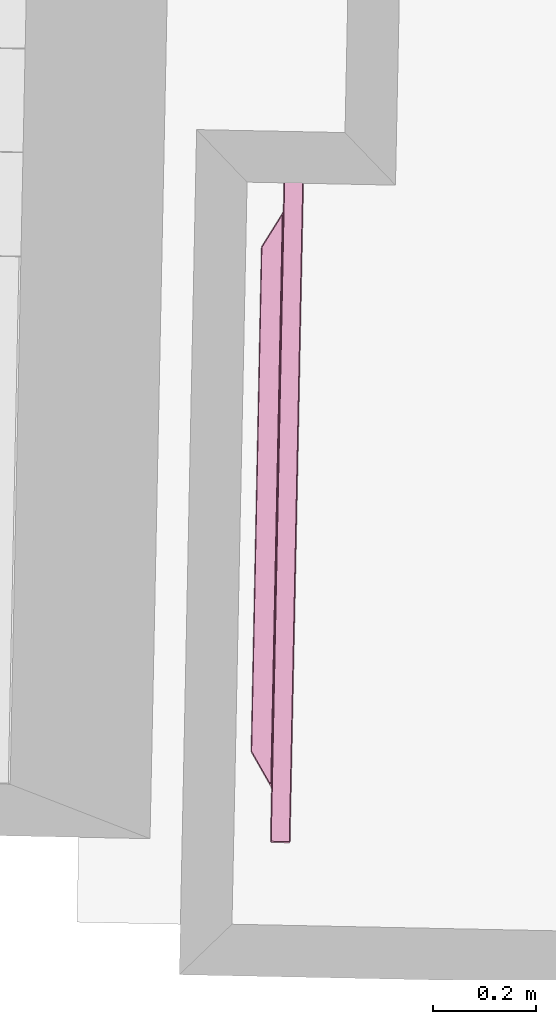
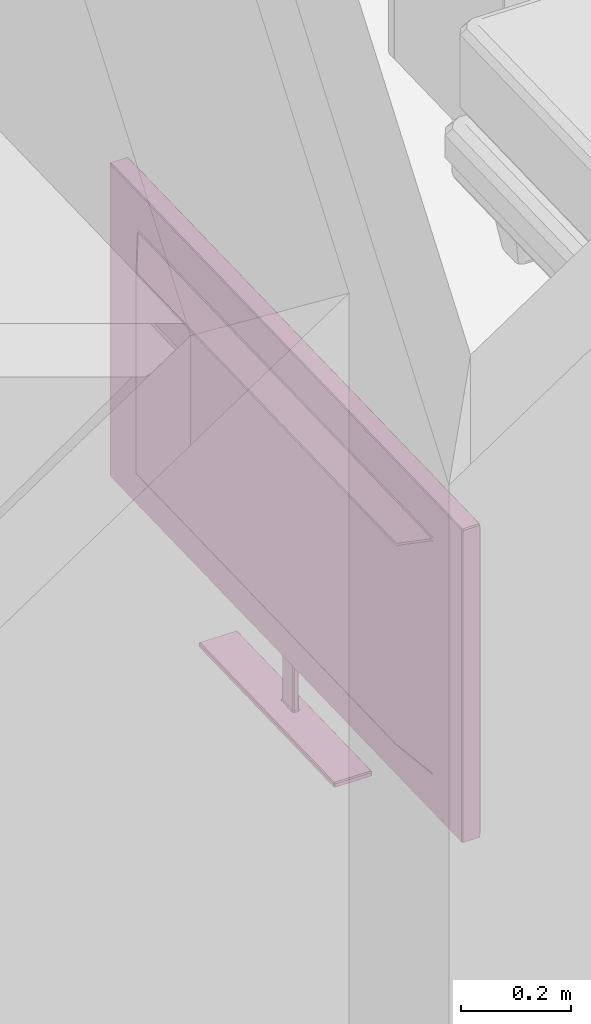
# One storey, part 5 of 8: 1 furnishing.
"""IFC2X3 building model written with IfcOpenShell, lengths in metres."""

from ifc_helpers import new_model, si_unit, frame, origin_with_axes, place, context, project, spatial, faceted_brep, type_object, element, save


model = new_model("IFC2X3")

# Units and contexts
model_context = context("Model", 3, precision=1e-05, world=origin_with_axes())
ifc_project = project(units=[si_unit("AREAUNIT", "SQUARE_METRE"), si_unit("LENGTHUNIT", "METRE")], contexts=[model_context])

# Site, building, storey, space
site_placement = place(None, origin_with_axes())
site = spatial("IfcSite", under=ifc_project, at=site_placement, Name="Site", CompositionType="ELEMENT")
building_placement = place(site_placement, origin_with_axes())
building = spatial("IfcBuilding", under=site, at=building_placement, Name="Building", CompositionType="ELEMENT")
storey_placement = place(building_placement, frame((0.0, 0.0, 2.8867046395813), z_axis=(0.0, 0.0, 1.0), x_axis=(1.0, 0.0, 0.0)))
storey = spatial("IfcBuildingStorey", under=building, at=storey_placement, Name="Story 1", CompositionType="ELEMENT", Elevation=2.8867045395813)
space_placement = place(storey_placement, frame((-5.79603528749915, -0.942128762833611, 0.0), z_axis=(0.0, 0.0, 1.0), x_axis=(1.0, 0.0, 0.0)))
space = spatial("IfcSpace", under=storey, at=space_placement, Name="006", CompositionType="ELEMENT", InteriorOrExteriorSpace="INTERNAL")

# Furnishing
furniture_type = type_object("IfcFurnitureType", Name="989c6d3e-431b-4286-8a18-e3d2ae4f307f")
furnishing_placement = place(space_placement, frame((4.15422749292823, -2.9785608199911, 0.978195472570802), z_axis=(0.0, 0.0, 0.999999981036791), x_axis=(0.999792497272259, -0.0203692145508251, 0.0)))
element("IfcFurnishingElement", 1, at=furnishing_placement, inside=space, type_object=furniture_type, Name="Television", ObjectType="Television", context=model_context, shape_type="Brep", body=[
    faceted_brep([(0.0288, -0.6309, -0.2396), (0.0288, 0.6309, -0.2396), (0.0288, -0.6335, -0.2374), (0.0288, -0.6335, 0.3757), (0.0288, -0.6335, -0.2374), (0.0288, -0.6309, 0.3779), (0.0288, 0.6309, 0.3779), (0.0288, -0.6309, 0.3779), (0.0288, 0.6335, 0.3757), (0.0288, -0.6309, 0.3779), (0.0288, -0.6335, -0.2374), (0.0288, 0.6335, 0.3757), (0.0288, -0.6335, -0.2374), (0.0288, 0.6309, -0.2396), (0.0288, 0.6335, 0.3757), (0.0288, 0.6309, -0.2396), (0.0288, 0.6335, -0.2374), (0.0288, 0.6335, 0.3757), (0.003, -0.6654, 0.4032), (0.003, -0.6654, -0.289), (0.038, -0.6654, 0.4032), (0.038, -0.6654, -0.289), (0.038, -0.6654, 0.4032), (0.003, -0.6654, -0.289), (0.003, 0.6654, -0.289), (0.003, 0.6654, 0.4032), (0.038, 0.6654, -0.289), (0.038, 0.6654, 0.4032), (0.038, 0.6654, -0.289), (0.003, 0.6654, 0.4032), (0.003, 0.6629, 0.4053), (0.003, -0.6629, 0.4053), (0.038, 0.6629, 0.4053), (0.038, -0.6629, 0.4053), (0.038, 0.6629, 0.4053), (0.003, -0.6629, 0.4053), (0.0143, -0.0229, -0.2661), (0.0062, -0.0229, -0.2661), (0.0143, -0.0229, -0.3914), (0.0062, -0.0229, -0.3914), (0.0143, -0.0229, -0.3914), (0.0062, -0.0229, -0.2661), (0.0162, 0.0182, -0.2661), (0.0162, -0.0205, -0.2661), (0.0162, 0.0182, -0.3914), (0.0162, -0.0205, -0.3914), (0.0162, 0.0182, -0.3914), (0.0162, -0.0205, -0.2661), (0.0062, 0.0207, -0.2661), (0.0143, 0.0207, -0.2661), (0.0062, 0.0207, -0.3914), (0.0143, 0.0207, -0.3914), (0.0062, 0.0207, -0.3914), (0.0143, 0.0207, -0.2661), (-0.04, 0.4877, -0.1631), (-0.04, -0.4877, -0.1631), (-0.04, 0.4877, 0.2773), (-0.04, -0.4877, 0.2773), (-0.04, 0.4877, 0.2773), (-0.04, -0.4877, -0.1631), (0.0043, 0.0182, -0.3914), (0.0043, -0.0205, -0.3914), (0.0043, 0.0182, -0.2661), (0.0043, -0.0205, -0.2661), (0.0043, 0.0182, -0.2661), (0.0043, -0.0205, -0.3914), (0.038, -0.6629, -0.2911), (0.003, -0.6629, -0.2911), (0.038, 0.6629, -0.2911), (0.003, 0.6629, -0.2911), (0.038, 0.6629, -0.2911), (0.003, -0.6629, -0.2911), (-0.0379, -0.2545, -0.4053), (-0.0379, 0.2522, -0.4053), (0.0382, -0.2545, -0.4053), (0.0382, 0.2522, -0.4053), (0.0382, -0.2545, -0.4053), (-0.0379, 0.2522, -0.4053), (0.0399, -0.6369, -0.246), (0.0399, -0.6614, -0.289), (0.0399, 0.6369, -0.246), (0.0399, 0.6614, -0.289), (0.0399, 0.6369, -0.246), (0.0399, -0.6614, -0.289), (0.0399, -0.6409, 0.3813), (0.0399, -0.6629, 0.4002), (0.0399, -0.6409, -0.2434), (0.0399, -0.6629, -0.282), (0.0399, -0.6409, -0.2434), (0.0399, -0.6629, 0.4002), (0.0399, 0.6374, 0.3843), (0.0399, 0.6594, 0.4032), (0.0399, -0.6374, 0.3843), (0.0399, -0.6594, 0.4032), (0.0399, -0.6374, 0.3843), (0.0399, 0.6594, 0.4032), (0.0399, 0.6629, -0.282), (0.0399, 0.6629, 0.4002), (0.0399, 0.6409, -0.2434), (0.0399, 0.6409, 0.3813), (0.0399, 0.6409, -0.2434), (0.0399, 0.6629, 0.4002), (0.0288, -0.6309, -0.2396), (0.0381, -0.6351, -0.2432), (0.0288, 0.6309, -0.2396), (0.0381, 0.6351, -0.2432), (0.0288, 0.6309, -0.2396), (0.0381, -0.6351, -0.2432), (0.0288, -0.6335, 0.3757), (0.0381, -0.6377, 0.3793), (0.0288, -0.6335, -0.2374), (0.0381, -0.6377, -0.241), (0.0288, -0.6335, -0.2374), (0.0381, -0.6377, 0.3793), (0.0288, 0.6309, 0.3779), (0.0381, 0.6351, 0.3815), (0.0288, -0.6309, 0.3779), (0.0381, -0.6351, 0.3815), (0.0288, -0.6309, 0.3779), (0.0381, 0.6351, 0.3815), (0.0288, 0.6335, -0.2374), (0.0381, 0.6377, -0.241), (0.0288, 0.6335, 0.3757), (0.0381, 0.6377, 0.3793), (0.0288, 0.6335, 0.3757), (0.0381, 0.6377, -0.241), (0.0011, -0.5617, -0.2041), (0.0011, -0.6629, -0.2862), (0.0011, -0.5617, 0.3183), (0.0011, -0.6629, 0.4004), (0.0011, -0.5617, 0.3183), (0.0011, -0.6629, -0.2862), (0.0011, 0.5582, -0.2071), (0.0011, 0.6592, -0.289), (0.0011, -0.5582, -0.2071), (0.0011, -0.6592, -0.289), (0.0011, -0.5582, -0.2071), (0.0011, 0.6592, -0.289), (0.0011, 0.5617, 0.3183), (0.0011, 0.6629, 0.4004), (0.0011, 0.5617, -0.2041), (0.0011, 0.6629, -0.2862), (0.0011, 0.5617, -0.2041), (0.0011, 0.6629, 0.4004), (0.0011, -0.5582, 0.3213), (0.0011, -0.6592, 0.4032), (0.0011, 0.5582, 0.3213), (0.0011, 0.6592, 0.4032), (0.0011, 0.5582, 0.3213), (0.0011, -0.6592, 0.4032), (-0.0389, -0.4921, 0.2781), (-0.0389, -0.4921, -0.164), (0.0, -0.5573, 0.3157), (0.0, -0.5573, -0.2015), (0.0, -0.5573, 0.3157), (-0.0389, -0.4921, -0.164), (-0.0386, -0.4891, -0.1666), (-0.0386, 0.4891, -0.1666), (-0.0003, -0.5534, -0.2036), (-0.0003, 0.5534, -0.2036), (-0.0003, -0.5534, -0.2036), (-0.0386, 0.4891, -0.1666), (-0.0389, 0.4921, -0.164), (-0.0389, 0.4921, 0.2781), (0.0, 0.5573, -0.2015), (0.0, 0.5573, 0.3157), (0.0, 0.5573, -0.2015), (-0.0389, 0.4921, 0.2781), (-0.0386, 0.4891, 0.2808), (-0.0386, -0.4891, 0.2808), (-0.0003, 0.5534, 0.3178), (-0.0003, -0.5534, 0.3178), (-0.0003, 0.5534, 0.3178), (-0.0386, -0.4891, 0.2808), (0.04, 0.2522, -0.4032), (0.04, 0.2522, -0.3958), (0.04, -0.2545, -0.4032), (0.04, -0.2545, -0.3958), (0.04, -0.2545, -0.4032), (0.04, 0.2522, -0.3958), (-0.0379, 0.2547, -0.4032), (-0.0379, 0.2547, -0.3958), (0.0382, 0.2547, -0.4032), (0.0382, 0.2547, -0.3958), (0.0382, 0.2547, -0.4032), (-0.0379, 0.2547, -0.3958), (-0.0397, -0.2545, -0.4032), (-0.0397, -0.2545, -0.3958), (-0.0397, 0.2522, -0.4032), (-0.0397, 0.2522, -0.3958), (-0.0397, 0.2522, -0.4032), (-0.0397, -0.2545, -0.3958), (0.0382, -0.2569, -0.4032), (0.0382, -0.2569, -0.3958), (-0.0379, -0.2569, -0.4032), (-0.0379, -0.2569, -0.3958), (-0.0379, -0.2569, -0.4032), (0.0382, -0.2569, -0.3958), (-0.0374, -0.2545, -0.3936), (0.0379, -0.2545, -0.3936), (0.0058, -0.0254, -0.3936), (0.0146, -0.0254, -0.3936), (0.0058, -0.0254, -0.3936), (0.0379, -0.2545, -0.3936), (0.0025, 0.0204, -0.3936), (-0.0379, 0.2348, -0.3936), (0.0025, -0.0226, -0.3936), (-0.0379, -0.2371, -0.3936), (0.0025, -0.0226, -0.3936), (-0.0379, 0.2348, -0.3936), (0.0146, 0.0231, -0.3936), (0.0379, 0.2522, -0.3936), (0.0058, 0.0231, -0.3936), (-0.0374, 0.2522, -0.3936), (0.0058, 0.0231, -0.3936), (0.0379, 0.2522, -0.3936), (0.018, -0.0228, -0.3936), (0.0382, -0.2206, -0.3936), (0.018, 0.0205, -0.3936), (0.0382, 0.2183, -0.3936), (0.018, 0.0205, -0.3936), (0.0382, -0.2206, -0.3936), (0.0346, -0.6508, -0.2518), (0.0346, 0.6508, -0.2518), (0.0346, -0.6508, 0.3901), (0.0346, 0.6508, 0.3901), (0.0346, -0.6508, 0.3901), (0.0346, 0.6508, -0.2518), (0.0399, -0.6594, 0.4032), (0.038, -0.6629, 0.4053), (0.0399, -0.6629, 0.4002), (0.038, -0.6654, 0.4032), (0.0399, -0.6629, 0.4002), (0.038, -0.6629, 0.4053), (0.0011, 0.6592, 0.4032), (0.003, 0.6629, 0.4053), (0.0011, 0.6629, 0.4004), (0.003, 0.6654, 0.4032), (0.0011, 0.6629, 0.4004), (0.003, 0.6629, 0.4053), (0.0399, 0.6629, 0.4002), (0.038, 0.6654, 0.4032), (0.0399, 0.6594, 0.4032), (0.038, 0.6629, 0.4053), (0.0399, 0.6594, 0.4032), (0.038, 0.6654, 0.4032), (0.0058, -0.0254, -0.3936), (0.0062, -0.0229, -0.3914), (0.0025, -0.0226, -0.3936), (0.0043, -0.0205, -0.3914), (0.0025, -0.0226, -0.3936), (0.0062, -0.0229, -0.3914), (0.0146, -0.0254, -0.3936), (0.018, -0.0228, -0.3936), (0.0143, -0.0229, -0.3914), (0.0162, -0.0205, -0.3914), (0.0143, -0.0229, -0.3914), (0.018, -0.0228, -0.3936), (0.0146, 0.0231, -0.3936), (0.0143, 0.0207, -0.3914), (0.018, 0.0205, -0.3936), (0.0162, 0.0182, -0.3914), (0.018, 0.0205, -0.3936), (0.0143, 0.0207, -0.3914), (-0.0386, -0.4891, 0.2808), (-0.04, -0.4877, 0.2773), (-0.0389, -0.4921, 0.2781), (0.0058, 0.0231, -0.3936), (0.0025, 0.0204, -0.3936), (0.0062, 0.0207, -0.3914), (0.0043, 0.0182, -0.3914), (0.0062, 0.0207, -0.3914), (0.0025, 0.0204, -0.3936), (0.0011, -0.6592, -0.289), (0.003, -0.6629, -0.2911), (0.0011, -0.6629, -0.2862), (0.003, -0.6654, -0.289), (0.0011, -0.6629, -0.2862), (0.003, -0.6629, -0.2911), (0.0399, -0.6629, -0.282), (0.038, -0.6654, -0.289), (0.0399, -0.6614, -0.289), (0.038, -0.6629, -0.2911), (0.0399, -0.6614, -0.289), (0.038, -0.6654, -0.289), (0.0382, -0.2569, -0.4032), (0.0382, -0.2545, -0.4053), (0.04, -0.2545, -0.4032), (0.0399, 0.6629, -0.282), (0.0399, 0.6614, -0.289), (0.038, 0.6654, -0.289), (0.038, 0.6629, -0.2911), (0.038, 0.6654, -0.289), (0.0399, 0.6614, -0.289), (0.0381, -0.6377, -0.241), (0.0399, -0.6409, -0.2434), (0.0381, -0.6351, -0.2432), (0.0399, -0.6369, -0.246), (0.0381, -0.6351, -0.2432), (0.0399, -0.6409, -0.2434), (0.0381, -0.6351, 0.3815), (0.0399, -0.6374, 0.3843), (0.0381, -0.6377, 0.3793), (0.0399, -0.6409, 0.3813), (0.0381, -0.6377, 0.3793), (0.0399, -0.6374, 0.3843), (0.0381, 0.6377, 0.3793), (0.0399, 0.6409, 0.3813), (0.0381, 0.6351, 0.3815), (0.0399, 0.6374, 0.3843), (0.0381, 0.6351, 0.3815), (0.0399, 0.6409, 0.3813), (0.0381, 0.6377, -0.241), (0.0381, 0.6351, -0.2432), (0.0399, 0.6409, -0.2434), (0.0399, 0.6369, -0.246), (0.0399, 0.6409, -0.2434), (0.0381, 0.6351, -0.2432), (0.0011, -0.6592, 0.4032), (0.0011, -0.6629, 0.4004), (0.003, -0.6629, 0.4053), (0.003, -0.6654, 0.4032), (0.003, -0.6629, 0.4053), (0.0011, -0.6629, 0.4004), (-0.0003, -0.5534, 0.3178), (0.0, -0.5573, 0.3157), (0.0011, -0.5582, 0.3213), (0.0011, -0.5617, 0.3183), (0.0011, -0.5582, 0.3213), (0.0, -0.5573, 0.3157), (-0.0003, -0.5534, -0.2036), (0.0011, -0.5582, -0.2071), (0.0, -0.5573, -0.2015), (0.0011, -0.5617, -0.2041), (0.0, -0.5573, -0.2015), (0.0011, -0.5582, -0.2071), (0.0011, 0.6592, -0.289), (0.0011, 0.6629, -0.2862), (0.003, 0.6629, -0.2911), (0.003, 0.6654, -0.289), (0.003, 0.6629, -0.2911), (0.0011, 0.6629, -0.2862), (-0.0003, 0.5534, -0.2036), (0.0, 0.5573, -0.2015), (0.0011, 0.5582, -0.2071), (0.0011, 0.5617, -0.2041), (0.0011, 0.5582, -0.2071), (0.0, 0.5573, -0.2015), (-0.0003, 0.5534, 0.3178), (0.0011, 0.5582, 0.3213), (0.0, 0.5573, 0.3157), (0.0011, 0.5617, 0.3183), (0.0, 0.5573, 0.3157), (0.0011, 0.5582, 0.3213), (-0.0386, -0.4891, -0.1666), (-0.0389, -0.4921, -0.164), (-0.04, -0.4877, -0.1631), (-0.0389, 0.4921, -0.164), (-0.0386, 0.4891, -0.1666), (-0.04, 0.4877, -0.1631), (-0.0386, 0.4891, 0.2808), (-0.0389, 0.4921, 0.2781), (-0.04, 0.4877, 0.2773), (0.0382, 0.2547, -0.4032), (0.04, 0.2522, -0.4032), (0.0382, 0.2522, -0.4053), (-0.0397, 0.2522, -0.4032), (-0.0379, 0.2547, -0.4032), (-0.0379, 0.2522, -0.4053), (-0.0379, -0.2569, -0.4032), (-0.0397, -0.2545, -0.4032), (-0.0379, -0.2545, -0.4053), (-0.0379, -0.2371, -0.3936), (-0.0397, -0.2545, -0.3958), (-0.0374, -0.2545, -0.3936), (-0.0379, -0.2569, -0.3958), (-0.0374, -0.2545, -0.3936), (-0.0397, -0.2545, -0.3958), (0.0382, -0.2206, -0.3936), (0.0379, -0.2545, -0.3936), (0.04, -0.2545, -0.3958), (0.0382, -0.2569, -0.3958), (0.04, -0.2545, -0.3958), (0.0379, -0.2545, -0.3936), (-0.0379, 0.2348, -0.3936), (-0.0374, 0.2522, -0.3936), (-0.0397, 0.2522, -0.3958), (-0.0379, 0.2547, -0.3958), (-0.0397, 0.2522, -0.3958), (-0.0374, 0.2522, -0.3936), (0.0382, 0.2547, -0.3958), (0.0379, 0.2522, -0.3936), (0.04, 0.2522, -0.3958), (0.0382, 0.2183, -0.3936), (0.04, 0.2522, -0.3958), (0.0379, 0.2522, -0.3936), (0.038, -0.6654, -0.289), (0.003, -0.6654, -0.289), (0.038, -0.6629, -0.2911), (0.003, -0.6629, -0.2911), (0.038, -0.6629, -0.2911), (0.003, -0.6654, -0.289), (0.003, -0.6654, 0.4032), (0.038, -0.6654, 0.4032), (0.003, -0.6629, 0.4053), (0.038, -0.6629, 0.4053), (0.003, -0.6629, 0.4053), (0.038, -0.6654, 0.4032), (0.038, 0.6654, 0.4032), (0.003, 0.6654, 0.4032), (0.038, 0.6629, 0.4053), (0.003, 0.6629, 0.4053), (0.038, 0.6629, 0.4053), (0.003, 0.6654, 0.4032), (0.003, 0.6654, -0.289), (0.038, 0.6654, -0.289), (0.003, 0.6629, -0.2911), (0.038, 0.6629, -0.2911), (0.003, 0.6629, -0.2911), (0.038, 0.6654, -0.289), (0.0062, -0.0229, -0.3914), (0.0062, -0.0229, -0.2661), (0.0043, -0.0205, -0.3914), (0.0043, -0.0205, -0.2661), (0.0043, -0.0205, -0.3914), (0.0062, -0.0229, -0.2661), (0.0143, -0.0229, -0.2661), (0.0143, -0.0229, -0.3914), (0.0162, -0.0205, -0.2661), (0.0162, -0.0205, -0.3914), (0.0162, -0.0205, -0.2661), (0.0143, -0.0229, -0.3914), (0.0162, 0.0182, -0.2661), (0.0162, 0.0182, -0.3914), (0.0143, 0.0207, -0.2661), (0.0143, 0.0207, -0.3914), (0.0143, 0.0207, -0.2661), (0.0162, 0.0182, -0.3914), (0.0062, 0.0207, -0.2661), (0.0062, 0.0207, -0.3914), (0.0043, 0.0182, -0.2661), (0.0043, 0.0182, -0.3914), (0.0043, 0.0182, -0.2661), (0.0062, 0.0207, -0.3914), (-0.04, -0.4877, 0.2773), (-0.04, -0.4877, -0.1631), (-0.0389, -0.4921, 0.2781), (-0.0389, -0.4921, -0.164), (-0.0389, -0.4921, 0.2781), (-0.04, -0.4877, -0.1631), (-0.04, -0.4877, -0.1631), (-0.04, 0.4877, -0.1631), (-0.0386, -0.4891, -0.1666), (-0.0386, 0.4891, -0.1666), (-0.0386, -0.4891, -0.1666), (-0.04, 0.4877, -0.1631), (-0.04, 0.4877, -0.1631), (-0.04, 0.4877, 0.2773), (-0.0389, 0.4921, -0.164), (-0.0389, 0.4921, 0.2781), (-0.0389, 0.4921, -0.164), (-0.04, 0.4877, 0.2773), (-0.04, 0.4877, 0.2773), (-0.04, -0.4877, 0.2773), (-0.0386, 0.4891, 0.2808), (-0.0386, -0.4891, 0.2808), (-0.0386, 0.4891, 0.2808), (-0.04, -0.4877, 0.2773), (0.0382, 0.2522, -0.4053), (-0.0379, 0.2522, -0.4053), (0.0382, 0.2547, -0.4032), (-0.0379, 0.2547, -0.4032), (0.0382, 0.2547, -0.4032), (-0.0379, 0.2522, -0.4053), (-0.0379, 0.2522, -0.4053), (-0.0379, -0.2545, -0.4053), (-0.0397, 0.2522, -0.4032), (-0.0397, -0.2545, -0.4032), (-0.0397, 0.2522, -0.4032), (-0.0379, -0.2545, -0.4053), (-0.0379, -0.2545, -0.4053), (0.0382, -0.2545, -0.4053), (-0.0379, -0.2569, -0.4032), (0.0382, -0.2569, -0.4032), (-0.0379, -0.2569, -0.4032), (0.0382, -0.2545, -0.4053), (0.0382, -0.2545, -0.4053), (0.0382, 0.2522, -0.4053), (0.04, -0.2545, -0.4032), (0.04, 0.2522, -0.4032), (0.04, -0.2545, -0.4032), (0.0382, 0.2522, -0.4053), (0.0399, 0.6614, -0.289), (0.0399, -0.6614, -0.289), (0.038, 0.6629, -0.2911), (0.038, -0.6629, -0.2911), (0.038, 0.6629, -0.2911), (0.0399, -0.6614, -0.289), (0.0399, -0.6614, -0.289), (0.0399, -0.6369, -0.246), (0.0399, -0.6629, -0.282), (0.0399, -0.6409, -0.2434), (0.0399, -0.6629, -0.282), (0.0399, -0.6369, -0.246), (0.0399, -0.6629, -0.282), (0.0399, -0.6629, 0.4002), (0.038, -0.6654, -0.289), (0.038, -0.6654, 0.4032), (0.038, -0.6654, -0.289), (0.0399, -0.6629, 0.4002), (0.0399, -0.6629, 0.4002), (0.0399, -0.6409, 0.3813), (0.0399, -0.6594, 0.4032), (0.0399, -0.6374, 0.3843), (0.0399, -0.6594, 0.4032), (0.0399, -0.6409, 0.3813), (0.0399, -0.6594, 0.4032), (0.0399, 0.6594, 0.4032), (0.038, -0.6629, 0.4053), (0.038, 0.6629, 0.4053), (0.038, -0.6629, 0.4053), (0.0399, 0.6594, 0.4032), (0.0399, 0.6594, 0.4032), (0.0399, 0.6374, 0.3843), (0.0399, 0.6629, 0.4002), (0.0399, 0.6409, 0.3813), (0.0399, 0.6629, 0.4002), (0.0399, 0.6374, 0.3843), (0.0399, 0.6629, 0.4002), (0.0399, 0.6629, -0.282), (0.038, 0.6654, 0.4032), (0.038, 0.6654, -0.289), (0.038, 0.6654, 0.4032), (0.0399, 0.6629, -0.282), (0.0399, 0.6629, -0.282), (0.0399, 0.6409, -0.2434), (0.0399, 0.6614, -0.289), (0.0399, 0.6369, -0.246), (0.0399, 0.6614, -0.289), (0.0399, 0.6409, -0.2434), (0.0381, 0.6351, -0.2432), (0.0381, -0.6351, -0.2432), (0.0399, 0.6369, -0.246), (0.0399, -0.6369, -0.246), (0.0399, 0.6369, -0.246), (0.0381, -0.6351, -0.2432), (0.0381, -0.6351, -0.2432), (0.0288, -0.6309, -0.2396), (0.0381, -0.6377, -0.241), (0.0288, -0.6335, -0.2374), (0.0381, -0.6377, -0.241), (0.0288, -0.6309, -0.2396), (0.0381, -0.6377, -0.241), (0.0381, -0.6377, 0.3793), (0.0399, -0.6409, -0.2434), (0.0399, -0.6409, 0.3813), (0.0399, -0.6409, -0.2434), (0.0381, -0.6377, 0.3793), (0.0381, -0.6377, 0.3793), (0.0288, -0.6335, 0.3757), (0.0381, -0.6351, 0.3815), (0.0288, -0.6309, 0.3779), (0.0381, -0.6351, 0.3815), (0.0288, -0.6335, 0.3757), (0.0381, -0.6351, 0.3815), (0.0381, 0.6351, 0.3815), (0.0399, -0.6374, 0.3843), (0.0399, 0.6374, 0.3843), (0.0399, -0.6374, 0.3843), (0.0381, 0.6351, 0.3815), (0.0381, 0.6351, 0.3815), (0.0288, 0.6309, 0.3779), (0.0381, 0.6377, 0.3793), (0.0288, 0.6335, 0.3757), (0.0381, 0.6377, 0.3793), (0.0288, 0.6309, 0.3779), (0.0381, 0.6377, 0.3793), (0.0381, 0.6377, -0.241), (0.0399, 0.6409, 0.3813), (0.0399, 0.6409, -0.2434), (0.0399, 0.6409, 0.3813), (0.0381, 0.6377, -0.241), (0.0381, 0.6377, -0.241), (0.0288, 0.6335, -0.2374), (0.0381, 0.6351, -0.2432), (0.0288, 0.6309, -0.2396), (0.0381, 0.6351, -0.2432), (0.0288, 0.6335, -0.2374), (0.0011, -0.6629, 0.4004), (0.0011, -0.6629, -0.2862), (0.003, -0.6654, 0.4032), (0.003, -0.6654, -0.289), (0.003, -0.6654, 0.4032), (0.0011, -0.6629, -0.2862), (0.0011, -0.6629, -0.2862), (0.0011, -0.5617, -0.2041), (0.0011, -0.6592, -0.289), (0.0011, -0.5582, -0.2071), (0.0011, -0.6592, -0.289), (0.0011, -0.5617, -0.2041), (0.0011, -0.5617, -0.2041), (0.0011, -0.5617, 0.3183), (0.0, -0.5573, -0.2015), (0.0, -0.5573, 0.3157), (0.0, -0.5573, -0.2015), (0.0011, -0.5617, 0.3183), (0.0011, -0.6592, -0.289), (0.0011, 0.6592, -0.289), (0.003, -0.6629, -0.2911), (0.003, 0.6629, -0.2911), (0.003, -0.6629, -0.2911), (0.0011, 0.6592, -0.289), (0.0011, 0.6592, -0.289), (0.0011, 0.5582, -0.2071), (0.0011, 0.6629, -0.2862), (0.0011, 0.5617, -0.2041), (0.0011, 0.6629, -0.2862), (0.0011, 0.5582, -0.2071), (0.0011, 0.5582, -0.2071), (0.0011, -0.5582, -0.2071), (-0.0003, 0.5534, -0.2036), (-0.0003, -0.5534, -0.2036), (-0.0003, 0.5534, -0.2036), (0.0011, -0.5582, -0.2071), (0.0011, 0.6629, -0.2862), (0.0011, 0.6629, 0.4004), (0.003, 0.6654, -0.289), (0.003, 0.6654, 0.4032), (0.003, 0.6654, -0.289), (0.0011, 0.6629, 0.4004), (0.0011, 0.6629, 0.4004), (0.0011, 0.5617, 0.3183), (0.0011, 0.6592, 0.4032), (0.0011, 0.5582, 0.3213), (0.0011, 0.6592, 0.4032), (0.0011, 0.5617, 0.3183), (0.0011, 0.5617, 0.3183), (0.0011, 0.5617, -0.2041), (0.0, 0.5573, 0.3157), (0.0, 0.5573, -0.2015), (0.0, 0.5573, 0.3157), (0.0011, 0.5617, -0.2041), (0.0011, 0.6592, 0.4032), (0.0011, -0.6592, 0.4032), (0.003, 0.6629, 0.4053), (0.003, -0.6629, 0.4053), (0.003, 0.6629, 0.4053), (0.0011, -0.6592, 0.4032), (0.0011, -0.6592, 0.4032), (0.0011, -0.5582, 0.3213), (0.0011, -0.6629, 0.4004), (0.0011, -0.5617, 0.3183), (0.0011, -0.6629, 0.4004), (0.0011, -0.5582, 0.3213), (0.0011, -0.5582, 0.3213), (0.0011, 0.5582, 0.3213), (-0.0003, -0.5534, 0.3178), (-0.0003, 0.5534, 0.3178), (-0.0003, -0.5534, 0.3178), (0.0011, 0.5582, 0.3213), (0.0, -0.5573, -0.2015), (-0.0389, -0.4921, -0.164), (-0.0003, -0.5534, -0.2036), (-0.0386, -0.4891, -0.1666), (-0.0003, -0.5534, -0.2036), (-0.0389, -0.4921, -0.164), (-0.0003, 0.5534, -0.2036), (-0.0386, 0.4891, -0.1666), (0.0, 0.5573, -0.2015), (-0.0389, 0.4921, -0.164), (0.0, 0.5573, -0.2015), (-0.0386, 0.4891, -0.1666), (0.0, 0.5573, 0.3157), (-0.0389, 0.4921, 0.2781), (-0.0003, 0.5534, 0.3178), (-0.0386, 0.4891, 0.2808), (-0.0003, 0.5534, 0.3178), (-0.0389, 0.4921, 0.2781), (-0.0003, -0.5534, 0.3178), (-0.0386, -0.4891, 0.2808), (0.0, -0.5573, 0.3157), (-0.0389, -0.4921, 0.2781), (0.0, -0.5573, 0.3157), (-0.0386, -0.4891, 0.2808), (0.04, 0.2522, -0.3958), (0.04, 0.2522, -0.4032), (0.0382, 0.2547, -0.3958), (0.0382, 0.2547, -0.4032), (0.0382, 0.2547, -0.3958), (0.04, 0.2522, -0.4032), (-0.0379, 0.2547, -0.3958), (-0.0379, 0.2547, -0.4032), (-0.0397, 0.2522, -0.3958), (-0.0397, 0.2522, -0.4032), (-0.0397, 0.2522, -0.3958), (-0.0379, 0.2547, -0.4032), (-0.0397, -0.2545, -0.3958), (-0.0397, -0.2545, -0.4032), (-0.0379, -0.2569, -0.3958), (-0.0379, -0.2569, -0.4032), (-0.0379, -0.2569, -0.3958), (-0.0397, -0.2545, -0.4032), (0.0382, -0.2569, -0.3958), (0.0382, -0.2569, -0.4032), (0.04, -0.2545, -0.3958), (0.04, -0.2545, -0.4032), (0.04, -0.2545, -0.3958), (0.0382, -0.2569, -0.4032), (0.0379, -0.2545, -0.3936), (-0.0374, -0.2545, -0.3936), (0.0382, -0.2569, -0.3958), (-0.0379, -0.2569, -0.3958), (0.0382, -0.2569, -0.3958), (-0.0374, -0.2545, -0.3936), (-0.0374, -0.2545, -0.3936), (0.0058, -0.0254, -0.3936), (-0.0379, -0.2371, -0.3936), (0.0025, -0.0226, -0.3936), (-0.0379, -0.2371, -0.3936), (0.0058, -0.0254, -0.3936), (0.0058, -0.0254, -0.3936), (0.0146, -0.0254, -0.3936), (0.0062, -0.0229, -0.3914), (0.0143, -0.0229, -0.3914), (0.0062, -0.0229, -0.3914), (0.0146, -0.0254, -0.3936), (-0.0379, -0.2371, -0.3936), (-0.0379, 0.2348, -0.3936), (-0.0397, -0.2545, -0.3958), (-0.0397, 0.2522, -0.3958), (-0.0397, -0.2545, -0.3958), (-0.0379, 0.2348, -0.3936), (-0.0379, 0.2348, -0.3936), (0.0025, 0.0204, -0.3936), (-0.0374, 0.2522, -0.3936), (0.0058, 0.0231, -0.3936), (-0.0374, 0.2522, -0.3936), (0.0025, 0.0204, -0.3936), (0.0025, 0.0204, -0.3936), (0.0025, -0.0226, -0.3936), (0.0043, 0.0182, -0.3914), (0.0043, -0.0205, -0.3914), (0.0043, 0.0182, -0.3914), (0.0025, -0.0226, -0.3936), (-0.0374, 0.2522, -0.3936), (0.0379, 0.2522, -0.3936), (-0.0379, 0.2547, -0.3958), (0.0382, 0.2547, -0.3958), (-0.0379, 0.2547, -0.3958), (0.0379, 0.2522, -0.3936), (0.0379, 0.2522, -0.3936), (0.0146, 0.0231, -0.3936), (0.0382, 0.2183, -0.3936), (0.018, 0.0205, -0.3936), (0.0382, 0.2183, -0.3936), (0.0146, 0.0231, -0.3936), (0.0146, 0.0231, -0.3936), (0.0058, 0.0231, -0.3936), (0.0143, 0.0207, -0.3914), (0.0062, 0.0207, -0.3914), (0.0143, 0.0207, -0.3914), (0.0058, 0.0231, -0.3936), (0.0382, 0.2183, -0.3936), (0.0382, -0.2206, -0.3936), (0.04, 0.2522, -0.3958), (0.04, -0.2545, -0.3958), (0.04, 0.2522, -0.3958), (0.0382, -0.2206, -0.3936), (0.0382, -0.2206, -0.3936), (0.018, -0.0228, -0.3936), (0.0379, -0.2545, -0.3936), (0.0146, -0.0254, -0.3936), (0.0379, -0.2545, -0.3936), (0.018, -0.0228, -0.3936), (0.018, -0.0228, -0.3936), (0.018, 0.0205, -0.3936), (0.0162, -0.0205, -0.3914), (0.0162, 0.0182, -0.3914), (0.0162, -0.0205, -0.3914), (0.018, 0.0205, -0.3936)], [[[0, 1, 2]], [[3, 4, 5]], [[6, 7, 8]], [[9, 10, 11]], [[12, 13, 14]], [[15, 16, 17]], [[18, 19, 20]], [[21, 22, 23]], [[24, 25, 26]], [[27, 28, 29]], [[30, 31, 32]], [[33, 34, 35]], [[36, 37, 38]], [[39, 40, 41]], [[42, 43, 44]], [[45, 46, 47]], [[48, 49, 50]], [[51, 52, 53]], [[54, 55, 56]], [[57, 58, 59]], [[60, 61, 62]], [[63, 64, 65]], [[66, 67, 68]], [[69, 70, 71]], [[72, 73, 74]], [[75, 76, 77]], [[78, 79, 80]], [[81, 82, 83]], [[84, 85, 86]], [[87, 88, 89]], [[90, 91, 92]], [[93, 94, 95]], [[96, 97, 98]], [[99, 100, 101]], [[102, 103, 104]], [[105, 106, 107]], [[108, 109, 110]], [[111, 112, 113]], [[114, 115, 116]], [[117, 118, 119]], [[120, 121, 122]], [[123, 124, 125]], [[126, 127, 128]], [[129, 130, 131]], [[132, 133, 134]], [[135, 136, 137]], [[138, 139, 140]], [[141, 142, 143]], [[144, 145, 146]], [[147, 148, 149]], [[150, 151, 152]], [[153, 154, 155]], [[156, 157, 158]], [[159, 160, 161]], [[162, 163, 164]], [[165, 166, 167]], [[168, 169, 170]], [[171, 172, 173]], [[174, 175, 176]], [[177, 178, 179]], [[180, 181, 182]], [[183, 184, 185]], [[186, 187, 188]], [[189, 190, 191]], [[192, 193, 194]], [[195, 196, 197]], [[198, 199, 200]], [[201, 202, 203]], [[204, 205, 206]], [[207, 208, 209]], [[210, 211, 212]], [[213, 214, 215]], [[216, 217, 218]], [[219, 220, 221]], [[222, 223, 224]], [[225, 226, 227]], [[228, 229, 230]], [[231, 232, 233]], [[234, 235, 236]], [[237, 238, 239]], [[240, 241, 242]], [[243, 244, 245]], [[246, 247, 248]], [[249, 250, 251]], [[252, 253, 254]], [[255, 256, 257]], [[258, 259, 260]], [[261, 262, 263]], [[264, 265, 266]], [[267, 268, 269]], [[270, 271, 272]], [[273, 274, 275]], [[276, 277, 278]], [[279, 280, 281]], [[282, 283, 284]], [[285, 286, 287]], [[288, 289, 290]], [[291, 292, 293]], [[294, 295, 296]], [[297, 298, 299]], [[300, 301, 302]], [[303, 304, 305]], [[306, 307, 308]], [[309, 310, 311]], [[312, 313, 314]], [[315, 316, 317]], [[318, 319, 320]], [[321, 322, 323]], [[324, 325, 326]], [[327, 328, 329]], [[330, 331, 332]], [[333, 334, 335]], [[336, 337, 338]], [[339, 340, 341]], [[342, 343, 344]], [[345, 346, 347]], [[348, 349, 350]], [[351, 352, 353]], [[354, 355, 356]], [[357, 358, 359]], [[360, 361, 362]], [[363, 364, 365]], [[366, 367, 368]], [[369, 370, 371]], [[372, 373, 374]], [[375, 376, 377]], [[378, 379, 380]], [[381, 382, 383]], [[384, 385, 386]], [[387, 388, 389]], [[390, 391, 392]], [[393, 394, 395]], [[396, 397, 398]], [[399, 400, 401]], [[402, 403, 404]], [[405, 406, 407]], [[408, 409, 410]], [[411, 412, 413]], [[414, 415, 416]], [[417, 418, 419]], [[420, 421, 422]], [[423, 424, 425]], [[426, 427, 428]], [[429, 430, 431]], [[432, 433, 434]], [[435, 436, 437]], [[438, 439, 440]], [[441, 442, 443]], [[444, 445, 446]], [[447, 448, 449]], [[450, 451, 452]], [[453, 454, 455]], [[456, 457, 458]], [[459, 460, 461]], [[462, 463, 464]], [[465, 466, 467]], [[468, 469, 470]], [[471, 472, 473]], [[474, 475, 476]], [[477, 478, 479]], [[480, 481, 482]], [[483, 484, 485]], [[486, 487, 488]], [[489, 490, 491]], [[492, 493, 494]], [[495, 496, 497]], [[498, 499, 500]], [[501, 502, 503]], [[504, 505, 506]], [[507, 508, 509]], [[510, 511, 512]], [[513, 514, 515]], [[516, 517, 518]], [[519, 520, 521]], [[522, 523, 524]], [[525, 526, 527]], [[528, 529, 530]], [[531, 532, 533]], [[534, 535, 536]], [[537, 538, 539]], [[540, 541, 542]], [[543, 544, 545]], [[546, 547, 548]], [[549, 550, 551]], [[552, 553, 554]], [[555, 556, 557]], [[558, 559, 560]], [[561, 562, 563]], [[564, 565, 566]], [[567, 568, 569]], [[570, 571, 572]], [[573, 574, 575]], [[576, 577, 578]], [[579, 580, 581]], [[582, 583, 584]], [[585, 586, 587]], [[588, 589, 590]], [[591, 592, 593]], [[594, 595, 596]], [[597, 598, 599]], [[600, 601, 602]], [[603, 604, 605]], [[606, 607, 608]], [[609, 610, 611]], [[612, 613, 614]], [[615, 616, 617]], [[618, 619, 620]], [[621, 622, 623]], [[624, 625, 626]], [[627, 628, 629]], [[630, 631, 632]], [[633, 634, 635]], [[636, 637, 638]], [[639, 640, 641]], [[642, 643, 644]], [[645, 646, 647]], [[648, 649, 650]], [[651, 652, 653]], [[654, 655, 656]], [[657, 658, 659]], [[660, 661, 662]], [[663, 664, 665]], [[666, 667, 668]], [[669, 670, 671]], [[672, 673, 674]], [[675, 676, 677]], [[678, 679, 680]], [[681, 682, 683]], [[684, 685, 686]], [[687, 688, 689]], [[690, 691, 692]], [[693, 694, 695]], [[696, 697, 698]], [[699, 700, 701]], [[702, 703, 704]], [[705, 706, 707]], [[708, 709, 710]], [[711, 712, 713]], [[714, 715, 716]], [[717, 718, 719]], [[720, 721, 722]], [[723, 724, 725]], [[726, 727, 728]], [[729, 730, 731]], [[732, 733, 734]], [[735, 736, 737]], [[738, 739, 740]], [[741, 742, 743]], [[744, 745, 746]], [[747, 748, 749]], [[750, 751, 752]], [[753, 754, 755]], [[756, 757, 758]], [[759, 760, 761]], [[762, 763, 764]], [[765, 766, 767]], [[768, 769, 770]], [[771, 772, 773]], [[774, 775, 776]], [[777, 778, 779]]]),
])

save(model, "model.ifc")
